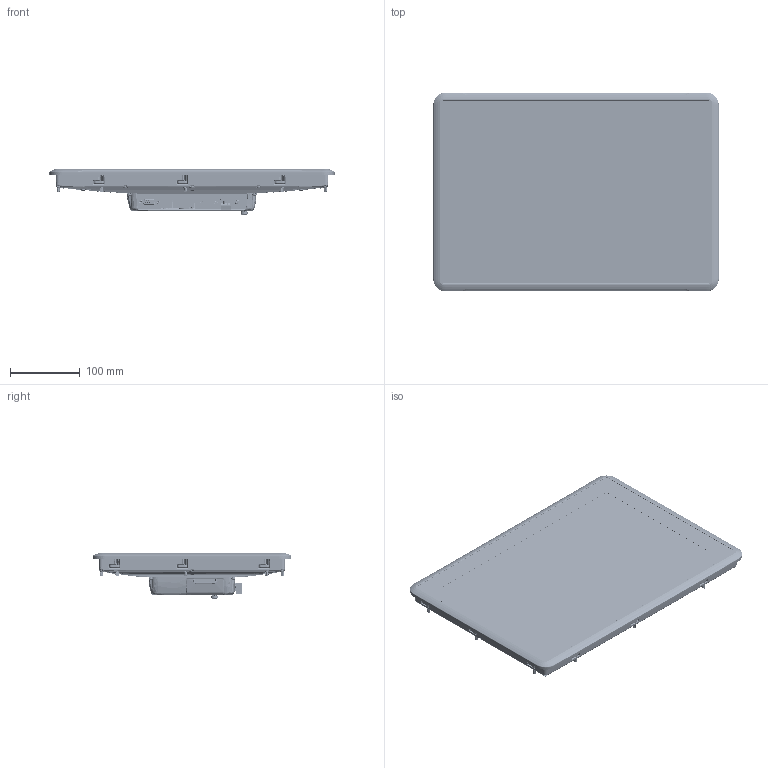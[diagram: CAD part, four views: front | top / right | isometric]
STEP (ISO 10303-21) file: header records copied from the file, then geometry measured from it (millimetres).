
FILE_DESCRIPTION (( 'STEP AP203' ), '1' );
FILE_NAME ('DOC-Z8100-102.STEP', '2016-04-28T14:38:05', ( 'user' ), ( 'Microsoft' ), 'SwSTEP 2.0', 'SolidWorks 2015', '' );
FILE_SCHEMA (( 'CONFIG_CONTROL_DESIGN' ));
Length unit declared in the file: millimetre
Products named in the file (50): 900-1097-01; DGSKT-00002; BT-Z3201-021A_1; CAB-Z7400-019A_DispCbl_T15-CD; CON-000076; MS-Z4302-002; DOC-Z8100-102; FT-Z2300-009_RevD; 900-1390_ISO 7046-1 - M3 x 6 - Z --- 6C; 900-0132_threaded; FT-Z2301-002A; CON-000086; 900-0059_threaded; MS-Z4300-001_Folded; IMX4_IMX7_M3.5x6.5mm_screw_InclwPCB_threaded; 900-0083; 900-0062_threaded; Copy of Assem8; LP-B0700-031a0A; KFF1500-Z909; 900-0017_threaded; FT-Z2201-001J; 900-0074; MS-Z4261-026; 900-1089-01; MS-Z4301-006A; 900-0018_threaded; MS-Z4261-010B_2; N08-022_First Instance; 900-0165; TxAB-II_PVOorEqivFrontCard; N07-953; 900-0080; pcba-imx7-20141208; MS-Z4800-004A_2; 900-0166_Flat (Unzipped); CON-000037; MS-Z4301-009_Top&Bottom; 900-0435; BT-Z3261-026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
Assembly tree (141 placements, depth 3):
  DOC-Z8100-102
    FT-Z2300-009_RevD
    MS-Z4300-001_Folded
    KFF1500-Z909
    MS-Z4301-006A
    N07-953
    MS-Z4301-009_Top&Bottom  x2
    MS-Z4301-009_Sides  x2
    MS-Z4302-001  x4
    MS-Z4302-002  x4
    900-0059_threaded  x23
    LP-B0700-031a0A
    900-1089-01
    Copy of Assem8
      TxAB-II_PVOorEqivFrontCard
      CON-000037
      CON-000038  x2
      CON-000070
      CON-000076  x2
      CON-000086
    MS-Z4261-026  x2
    900-0165  x2
    900-0166_Flat (Unzipped)  x2
    900-0126_FoldedAssy_T15B-2
    900-0125_FoldedAssy_T15B-2
    CAB-Z7400-019A_DispCbl_T15-CD
    FT-Z2301-002A
    900-0062_threaded  x12
    900-0074  x24
    N08-264  x12
      N08-022_First Instance
      MS-Z4800-004A_2
      N08-046
    BT-Z3201-021A_1
    900-0132_threaded  x12
    900-0083
    FT-Z2201-001J
    MS-Z4261-010B_2
    pcba-imx7-20141208
    BT-Z3261-026
    DHDWR-00002
    DGSKT-00002
    900-1390_ISO 7046-1 - M3 x 6 - Z --- 6C
    IMX4_IMX7_M3.5x6.5mm_screw_InclwPCB_threaded
    900-0017_threaded
    900-0018_threaded  x2
    900-0080
    900-0435
    900-0025
    900-1097-01
Bounding box: 410.2 x 286 x 65.83 mm (x, y, z)
Volume: 1755481.4 mm3; surface area: 1312224.9 mm2
Topology: 1556 solids, 1556 shells, 36362 faces, 91793 edges, 59247 vertices
Faces by surface type: plane 24381, cylinder 6861, bspline 4261, cone 641, torus 152, sphere 66
Full cylindrical faces by diameter (mm): 0.41 x10, 0.609 x1, 0.64 x4, 0.8 x14, 0.83 x4, 0.9 x32, 0.92 x8, 1 x25, 1.2 x3, 1.3 x14, 1.4 x7, 1.45 x4, 1.5 x7, 1.6 x6, 1.8 x4, 1.9 x4, 2.02 x20, 2.2 x2, 2.261 x2, 2.3 x2, 2.4 x6, 2.5 x75, 2.51 x2, 2.52 x1, 2.6 x12, 2.72 x1, 2.8 x2, 2.845 x5, 3 x36, 3.1 x9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
Entity records: 1004516 total; most frequent: CARTESIAN_POINT 396037, ORIENTED_EDGE 130400, DIRECTION 107875, EDGE_CURVE 65200, LINE 50289, VECTOR 50289, VERTEX_POINT 42487, EDGE_LOOP 28881
